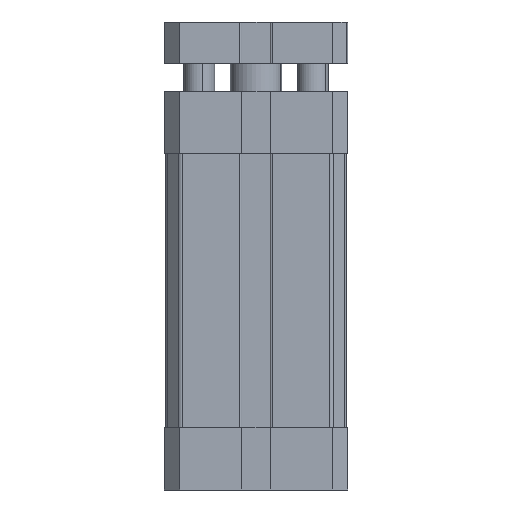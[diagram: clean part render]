
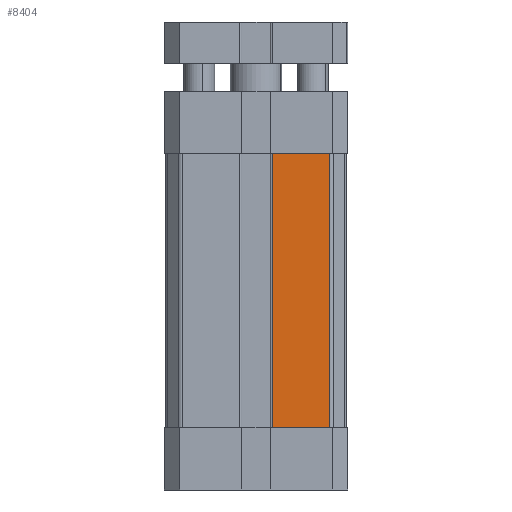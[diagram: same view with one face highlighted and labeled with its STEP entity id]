
A CAD part, front view. The second image highlights one B-rep face of the part: STEP entity #8404.
In plain terms, the highlighted planar face has unit normal (0, -1, 0).
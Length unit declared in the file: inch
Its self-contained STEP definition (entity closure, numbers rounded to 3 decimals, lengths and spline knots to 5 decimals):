
#189 = ORIENTED_EDGE ( 'NONE', *, *, #10177, .T. ) ;
#1267 = EDGE_CURVE ( 'NONE', #19653, #25592, #13275, .T. ) ;
#4514 = VECTOR ( 'NONE', #30483, 39.37008 ) ;
#5261 = ORIENTED_EDGE ( 'NONE', *, *, #1267, .T. ) ;
#5332 = CARTESIAN_POINT ( 'NONE',  ( -0.68898, -0.68898, -1.50092 ) ) ;
#6825 = ORIENTED_EDGE ( 'NONE', *, *, #10660, .F. ) ;
#7536 = LINE ( 'NONE', #9089, #16363 ) ;
#7551 = CARTESIAN_POINT ( 'NONE',  ( 0.56138, -0.68898, -1.50092 ) ) ;
#7840 = PLANE ( 'NONE',  #13492 ) ;
#8404 = ADVANCED_FACE ( 'NONE', ( #29910 ), #7840, .T. ) ;
#9089 = CARTESIAN_POINT ( 'NONE',  ( 0.56138, -0.68898, 0.5857 ) ) ;
#10177 = EDGE_CURVE ( 'NONE', #10308, #17989, #7536, .T. ) ;
#10308 = VERTEX_POINT ( 'NONE', #7551 ) ;
#10407 = VECTOR ( 'NONE', #12939, 39.37008 ) ;
#10660 = EDGE_CURVE ( 'NONE', #19653, #17989, #20777, .T. ) ;
#11252 = DIRECTION ( 'NONE',  ( 0., 0., 1. ) ) ;
#12939 = DIRECTION ( 'NONE',  ( 1., 0., 0. ) ) ;
#13275 = LINE ( 'NONE', #29608, #25142 ) ;
#13492 = AXIS2_PLACEMENT_3D ( 'NONE', #5332, #29120, #14915 ) ;
#13818 = EDGE_CURVE ( 'NONE', #25592, #10308, #20735, .T. ) ;
#13880 = CARTESIAN_POINT ( 'NONE',  ( -0.68898, -0.68898, 0.5857 ) ) ;
#14915 = DIRECTION ( 'NONE',  ( 1., 0., 0. ) ) ;
#15398 = DIRECTION ( 'NONE',  ( 0., 0., -1. ) ) ;
#16363 = VECTOR ( 'NONE', #11252, 39.37008 ) ;
#17989 = VERTEX_POINT ( 'NONE', #30560 ) ;
#19653 = VERTEX_POINT ( 'NONE', #27264 ) ;
#20735 = LINE ( 'NONE', #27142, #10407 ) ;
#20777 = LINE ( 'NONE', #13880, #4514 ) ;
#25142 = VECTOR ( 'NONE', #15398, 39.37008 ) ;
#25592 = VERTEX_POINT ( 'NONE', #29210 ) ;
#25790 = ORIENTED_EDGE ( 'NONE', *, *, #13818, .T. ) ;
#27142 = CARTESIAN_POINT ( 'NONE',  ( -0.68898, -0.68898, -1.50092 ) ) ;
#27208 = EDGE_LOOP ( 'NONE', ( #25790, #189, #6825, #5261 ) ) ;
#27264 = CARTESIAN_POINT ( 'NONE',  ( 0.12303, -0.68898, 0.5857 ) ) ;
#29120 = DIRECTION ( 'NONE',  ( 0., -1., 0. ) ) ;
#29210 = CARTESIAN_POINT ( 'NONE',  ( 0.12303, -0.68898, -1.50092 ) ) ;
#29608 = CARTESIAN_POINT ( 'NONE',  ( 0.12303, -0.68898, -1.50092 ) ) ;
#29910 = FACE_OUTER_BOUND ( 'NONE', #27208, .T. ) ;
#30483 = DIRECTION ( 'NONE',  ( 1., 0., 0. ) ) ;
#30560 = CARTESIAN_POINT ( 'NONE',  ( 0.56138, -0.68898, 0.5857 ) ) ;
